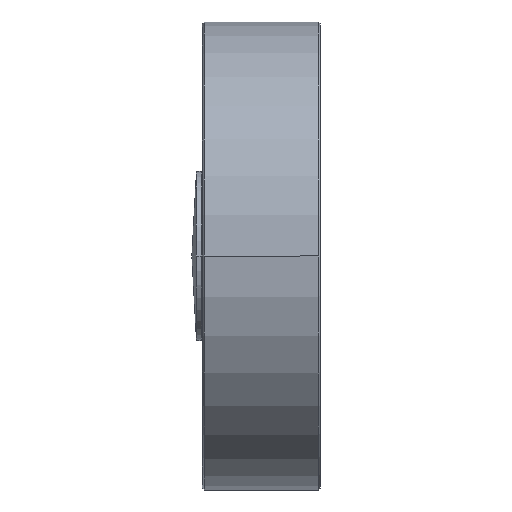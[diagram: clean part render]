
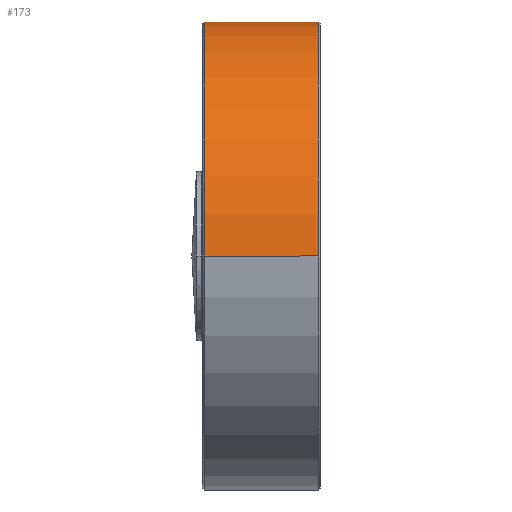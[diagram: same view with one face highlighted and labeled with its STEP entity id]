
A CAD part, left-side view. The second image highlights one B-rep face of the part: STEP entity #173.
In plain terms, the highlighted cylindrical face has radius 59.5 mm (diameter 119 mm), a partial arc.
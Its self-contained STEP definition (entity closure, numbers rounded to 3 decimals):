
#173=ADVANCED_FACE('',(#394),#395,.T.);
#394=FACE_OUTER_BOUND('',#771,.T.);
#395=CYLINDRICAL_SURFACE('',#772,59.5);
#771=EDGE_LOOP('',(#1405,#1406,#1407,#1408,#1409,#1410,#1411,#1412));
#772=AXIS2_PLACEMENT_3D('',#1413,#1414,#1415);
#1405=ORIENTED_EDGE('',*,*,#2507,.F.);
#1406=ORIENTED_EDGE('',*,*,#2508,.F.);
#1407=ORIENTED_EDGE('',*,*,#2509,.F.);
#1408=ORIENTED_EDGE('',*,*,#2510,.F.);
#1409=ORIENTED_EDGE('',*,*,#2511,.F.);
#1410=ORIENTED_EDGE('',*,*,#2442,.T.);
#1411=ORIENTED_EDGE('',*,*,#2512,.F.);
#1412=ORIENTED_EDGE('',*,*,#2444,.T.);
#1413=CARTESIAN_POINT('',(0.0,15.0,0.0));
#1414=DIRECTION('',(0.0,-1.0,0.0));
#1415=DIRECTION('',(1.0,0.0,0.0));
#2442=EDGE_CURVE('',#2981,#2985,#2987,.T.);
#2444=EDGE_CURVE('',#2991,#2988,#2992,.T.);
#2507=EDGE_CURVE('',#3109,#2988,#3112,.T.);
#2508=EDGE_CURVE('',#3105,#3109,#3113,.T.);
#2509=EDGE_CURVE('',#3114,#3105,#3115,.T.);
#2510=EDGE_CURVE('',#3116,#3114,#3117,.T.);
#2511=EDGE_CURVE('',#2981,#3116,#3118,.T.);
#2512=EDGE_CURVE('',#2991,#2985,#3119,.T.);
#2981=VERTEX_POINT('',#3658);
#2985=VERTEX_POINT('',#3663);
#2987=B_SPLINE_CURVE_WITH_KNOTS('',3,(#3666,#3667,#3668,#3669,#3670,#3671,#3672,#3673,#3674,#3675,#3676,#3677,#3678,#3679,#3680,#3681,#3682,#3683),.UNSPECIFIED.,.F.,.F.,(4,2,2,2,2,2,2,2,4),(0.98,1.225,1.47,1.715,1.96,2.206,2.451,2.696,2.941),.UNSPECIFIED.);
#2988=VERTEX_POINT('',#3684);
#2991=VERTEX_POINT('',#3688);
#2992=B_SPLINE_CURVE_WITH_KNOTS('',3,(#3689,#3690,#3691,#3692,#3693,#3694,#3695,#3696,#3697,#3698,#3699,#3700,#3701,#3702,#3703,#3704,#3705,#3706,#3707),.UNSPECIFIED.,.F.,.F.,(4,2,2,2,3,2,2,2,4),(1.877,2.033,2.189,2.346,2.502,2.658,2.815,2.971,3.128),.UNSPECIFIED.);
#3105=VERTEX_POINT('',#3853);
#3109=VERTEX_POINT('',#3858);
#3112=LINE('',#3862,#3863);
#3113=CIRCLE('',#3864,59.5);
#3114=VERTEX_POINT('',#3865);
#3115=LINE('',#3866,#3867);
#3116=VERTEX_POINT('',#3868);
#3117=CIRCLE('',#3869,59.5);
#3118=LINE('',#3870,#3871);
#3119=LINE('',#3872,#3873);
#3658=CARTESIAN_POINT('',(59.5,2.5,0.0));
#3663=CARTESIAN_POINT('',(59.5,15.5,0.));
#3666=CARTESIAN_POINT('',(59.5,2.5,0.));
#3667=CARTESIAN_POINT('',(59.5,2.5,0.817));
#3668=CARTESIAN_POINT('',(59.481,2.663,1.688));
#3669=CARTESIAN_POINT('',(59.414,3.327,3.289));
#3670=CARTESIAN_POINT('',(59.367,3.827,4.019));
#3671=CARTESIAN_POINT('',(59.278,4.981,5.173));
#3672=CARTESIAN_POINT('',(59.23,5.711,5.673));
#3673=CARTESIAN_POINT('',(59.163,7.312,6.337));
#3674=CARTESIAN_POINT('',(59.144,8.183,6.5));
#3675=CARTESIAN_POINT('',(59.144,9.817,6.5));
#3676=CARTESIAN_POINT('',(59.163,10.688,6.337));
#3677=CARTESIAN_POINT('',(59.23,12.289,5.673));
#3678=CARTESIAN_POINT('',(59.278,13.019,5.173));
#3679=CARTESIAN_POINT('',(59.367,14.173,4.019));
#3680=CARTESIAN_POINT('',(59.414,14.673,3.289));
#3681=CARTESIAN_POINT('',(59.481,15.337,1.688));
#3682=CARTESIAN_POINT('',(59.5,15.5,0.817));
#3683=CARTESIAN_POINT('',(59.5,15.5,0.));
#3684=CARTESIAN_POINT('',(59.5,24.65,0.0));
#3688=CARTESIAN_POINT('',(59.5,16.35,0.0));
#3689=CARTESIAN_POINT('',(59.5,16.35,0.));
#3690=CARTESIAN_POINT('',(59.5,16.35,0.521));
#3691=CARTESIAN_POINT('',(59.492,16.454,1.077));
#3692=CARTESIAN_POINT('',(59.465,16.878,2.1));
#3693=CARTESIAN_POINT('',(59.446,17.197,2.566));
#3694=CARTESIAN_POINT('',(59.409,17.934,3.303));
#3695=CARTESIAN_POINT('',(59.39,18.4,3.622));
#3696=CARTESIAN_POINT('',(59.363,19.423,4.046));
#3697=CARTESIAN_POINT('',(59.355,19.979,4.15));
#3698=CARTESIAN_POINT('',(59.355,20.5,4.15));
#3699=CARTESIAN_POINT('',(59.355,21.021,4.15));
#3700=CARTESIAN_POINT('',(59.363,21.577,4.046));
#3701=CARTESIAN_POINT('',(59.39,22.6,3.622));
#3702=CARTESIAN_POINT('',(59.409,23.066,3.303));
#3703=CARTESIAN_POINT('',(59.446,23.803,2.566));
#3704=CARTESIAN_POINT('',(59.465,24.122,2.1));
#3705=CARTESIAN_POINT('',(59.492,24.546,1.077));
#3706=CARTESIAN_POINT('',(59.5,24.65,0.521));
#3707=CARTESIAN_POINT('',(59.5,24.65,0.));
#3853=CARTESIAN_POINT('',(-59.5,29.5,0.));
#3858=CARTESIAN_POINT('',(59.5,29.5,0.));
#3862=CARTESIAN_POINT('',(59.5,15.0,0.));
#3863=VECTOR('',#4890,1.0);
#3864=AXIS2_PLACEMENT_3D('',#4891,#4892,#4893);
#3865=CARTESIAN_POINT('',(-59.5,0.5,0.));
#3866=CARTESIAN_POINT('',(-59.5,15.0,0.));
#3867=VECTOR('',#4894,1.0);
#3868=CARTESIAN_POINT('',(59.5,0.5,0.));
#3869=AXIS2_PLACEMENT_3D('',#4895,#4896,#4897);
#3870=CARTESIAN_POINT('',(59.5,15.0,0.));
#3871=VECTOR('',#4898,1.0);
#3872=CARTESIAN_POINT('',(59.5,15.0,0.));
#3873=VECTOR('',#4899,1.0);
#4890=DIRECTION('',(0.0,-1.0,0.0));
#4891=CARTESIAN_POINT('',(0.0,29.5,0.0));
#4892=DIRECTION('',(0.0,1.0,0.0));
#4893=DIRECTION('',(-1.0,0.0,0.0));
#4894=DIRECTION('',(0.0,1.0,0.0));
#4895=CARTESIAN_POINT('',(0.0,0.5,0.0));
#4896=DIRECTION('',(0.0,-1.0,0.0));
#4897=DIRECTION('',(-1.0,0.0,0.0));
#4898=DIRECTION('',(0.0,-1.0,0.0));
#4899=DIRECTION('',(0.0,-1.0,0.0));
